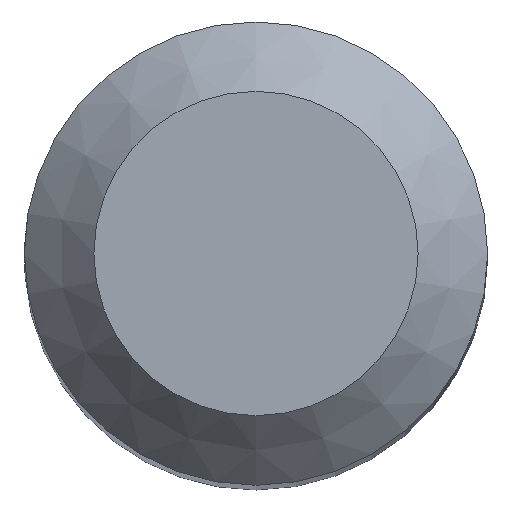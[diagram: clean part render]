
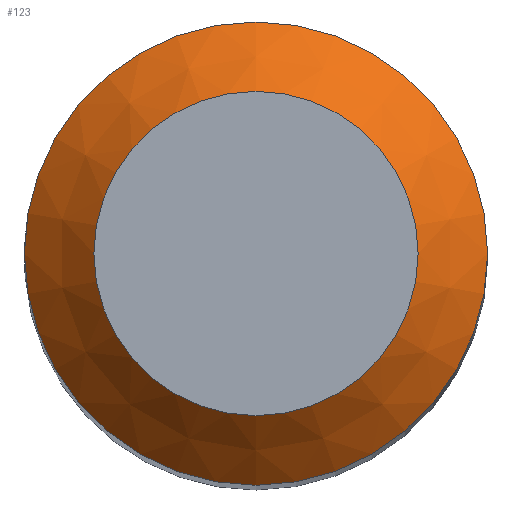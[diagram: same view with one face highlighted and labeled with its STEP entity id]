
A CAD part, top view. The second image highlights one B-rep face of the part: STEP entity #123.
In plain terms, the highlighted conical face has half-angle 45 degrees and reference radius 3 mm.
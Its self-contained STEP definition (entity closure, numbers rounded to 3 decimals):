
#40=FACE_BOUND('',#197,.T.);
#41=FACE_BOUND('',#198,.T.);
#90=CONICAL_SURFACE('',#757,3.,45.);
#123=ADVANCED_FACE('',(#40,#41),#90,.T.);
#197=EDGE_LOOP('',(#424));
#198=EDGE_LOOP('',(#425));
#424=ORIENTED_EDGE('',*,*,#617,.F.);
#425=ORIENTED_EDGE('',*,*,#616,.T.);
#526=VERTEX_POINT('',#2515);
#527=VERTEX_POINT('',#2518);
#616=EDGE_CURVE('',#526,#526,#639,.T.);
#617=EDGE_CURVE('',#527,#527,#640,.T.);
#639=CIRCLE('',#754,3.);
#640=CIRCLE('',#756,2.1);
#754=AXIS2_PLACEMENT_3D('',#2514,#833,#834);
#756=AXIS2_PLACEMENT_3D('',#2517,#837,#838);
#757=AXIS2_PLACEMENT_3D('',#2519,#839,#840);
#833=DIRECTION('',(0.,0.,1.));
#834=DIRECTION('',(0.,-1.,0.));
#837=DIRECTION('',(0.,0.,1.));
#838=DIRECTION('',(0.,-1.,0.));
#839=DIRECTION('',(0.,0.,-1.));
#840=DIRECTION('',(0.,-1.,0.));
#2514=CARTESIAN_POINT('',(0.,0.,-0.9));
#2515=CARTESIAN_POINT('',(0.,-3.,-0.9));
#2517=CARTESIAN_POINT('',(0.,0.,0.));
#2518=CARTESIAN_POINT('',(0.,-2.1,0.));
#2519=CARTESIAN_POINT('',(0.,0.,-0.9));
